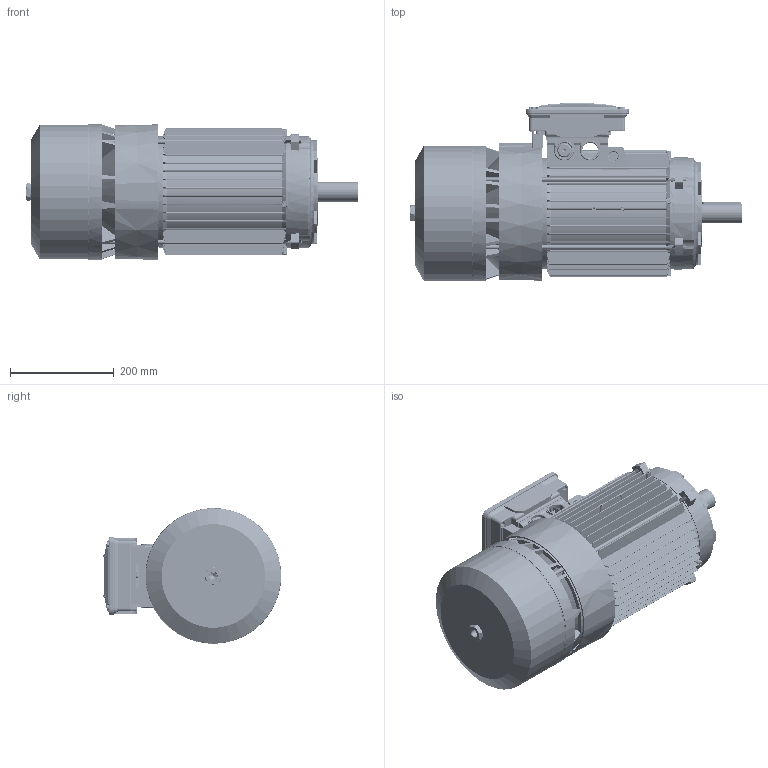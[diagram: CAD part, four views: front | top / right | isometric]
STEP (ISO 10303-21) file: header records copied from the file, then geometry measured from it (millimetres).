
FILE_DESCRIPTION (( 'STEP AP214' ), '1' );
FILE_NAME ('M02JC0010.STEP', '2019-04-13T06:51:47', ( '' ), ( '' ), 'SwSTEP 2.0', 'SolidWorks 2018', '' );
FILE_SCHEMA (( 'AUTOMOTIVE_DESIGN' ));
Length unit declared in the file: millimetre
Products named in the file (20): O-ring freno BA 132; Tirante BA 132 M - DGCQ0003; Scudo a Flangia B14 BA 132; Vite a Testa Esagona 20 MB gr. 132-200 - DGAS0094; Cuffia serie BA 132; Convogliatore con Pista d''attrito P2 BA 132; Chiavetta 132; Scatola BA 132 - Completa; Scudo Lato Freno P1 BA 132; Vite M5x20; Albero BA 132 M; Coperchio Scatola Morsettiera BA 132 - DGBR0002; Carcassa 132 M B5; Guarnizione Coperchio Morsettiera Doppia Scatola BA 132 - DGBS0102; M02JC0010; Piastra stringi Pipetta BA 132 - DGBA0210 bis; Guarnizione Basetta BA 132 - DGBU0202; Vite Autofilettante Testa Bombata 4,8x9,5; Pipetta passafilo; Scatola per Morsettiera BA 132 - DGBQ0102
Assembly tree (26 placements, depth 3):
  M02JC0010
    Carcassa 132 M B5
    Albero BA 132 M
    Scudo Lato Freno P1 BA 132
    Convogliatore con Pista d''attrito P2 BA 132
    Cuffia serie BA 132
    Vite a Testa Esagona 20 MB gr. 132-200 - DGAS0094
    Scudo a Flangia B14 BA 132
    Tirante BA 132 M - DGCQ0003  x4
    O-ring freno BA 132
    Scatola BA 132 - Completa
      Scatola per Morsettiera BA 132 - DGBQ0102
      Pipetta passafilo  x2
      Vite Autofilettante Testa Bombata 4,8x9,5
      Guarnizione Basetta BA 132 - DGBU0202
      Piastra stringi Pipetta BA 132 - DGBA0210 bis
      Guarnizione Coperchio Morsettiera Doppia Scatola BA 132 - DGBS0102
      Coperchio Scatola Morsettiera BA 132 - DGBR0002
      Vite M5x20  x4
    Chiavetta 132
Bounding box: 640.5 x 343.39 x 261.48 mm (x, y, z)
Volume: 5358315.4 mm3; surface area: 2118808.2 mm2
Topology: 25 solids, 25 shells, 3689 faces, 10015 edges, 6349 vertices
Faces by surface type: cylinder 1541, plane 1039, cone 519, torus 400, bspline 178, sphere 12
Entity records: 117057 total; most frequent: CARTESIAN_POINT 42904, ORIENTED_EDGE 15906, DIRECTION 14261, EDGE_CURVE 7953, AXIS2_PLACEMENT_3D 5507, VERTEX_POINT 5056, VECTOR 3247, LINE 3247
